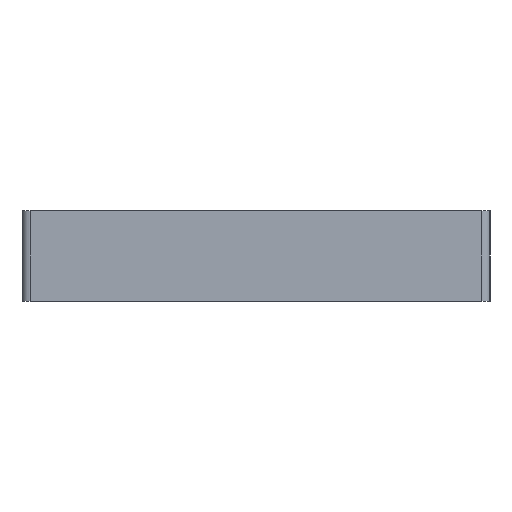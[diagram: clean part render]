
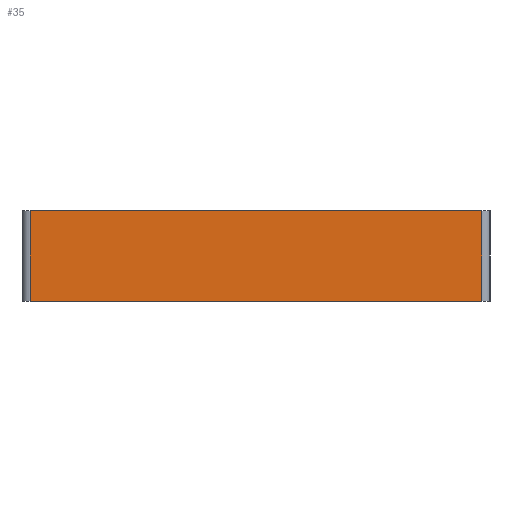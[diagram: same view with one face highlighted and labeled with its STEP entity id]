
A CAD part, left-side view. The second image highlights one B-rep face of the part: STEP entity #35.
In plain terms, the highlighted planar face has unit normal (-1, 0, 0).
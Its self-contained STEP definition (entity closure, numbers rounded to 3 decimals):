
#35 = ADVANCED_FACE('',(#36),#50,.T.);
#36 = FACE_BOUND('',#37,.T.);
#37 = EDGE_LOOP('',(#38,#73,#101,#129));
#38 = ORIENTED_EDGE('',*,*,#39,.T.);
#39 = EDGE_CURVE('',#40,#42,#44,.T.);
#40 = VERTEX_POINT('',#41);
#41 = CARTESIAN_POINT('',(-106.,-55.,3.4));
#42 = VERTEX_POINT('',#43);
#43 = CARTESIAN_POINT('',(-106.,-55.,25.4));
#44 = SURFACE_CURVE('',#45,(#49,#61),.PCURVE_S1.);
#45 = LINE('',#46,#47);
#46 = CARTESIAN_POINT('',(-106.,-55.,3.4));
#47 = VECTOR('',#48,1.);
#48 = DIRECTION('',(0.,0.,1.));
#49 = PCURVE('',#50,#55);
#50 = PLANE('',#51);
#51 = AXIS2_PLACEMENT_3D('',#52,#53,#54);
#52 = CARTESIAN_POINT('',(-106.,-55.,3.4));
#53 = DIRECTION('',(-1.,0.,0.));
#54 = DIRECTION('',(0.,1.,0.));
#55 = DEFINITIONAL_REPRESENTATION('',(#56),#60);
#56 = LINE('',#57,#58);
#57 = CARTESIAN_POINT('',(0.,0.));
#58 = VECTOR('',#59,1.);
#59 = DIRECTION('',(0.,-1.));
#60 = ( GEOMETRIC_REPRESENTATION_CONTEXT(2) 
PARAMETRIC_REPRESENTATION_CONTEXT() REPRESENTATION_CONTEXT('2D SPACE',''
  ) );
#61 = PCURVE('',#62,#67);
#62 = CYLINDRICAL_SURFACE('',#63,2.);
#63 = AXIS2_PLACEMENT_3D('',#64,#65,#66);
#64 = CARTESIAN_POINT('',(-104.,-55.,3.4));
#65 = DIRECTION('',(0.,0.,-1.));
#66 = DIRECTION('',(-1.,0.,0.));
#67 = DEFINITIONAL_REPRESENTATION('',(#68),#72);
#68 = LINE('',#69,#70);
#69 = CARTESIAN_POINT('',(6.283,0.));
#70 = VECTOR('',#71,1.);
#71 = DIRECTION('',(0.,-1.));
#72 = ( GEOMETRIC_REPRESENTATION_CONTEXT(2) 
PARAMETRIC_REPRESENTATION_CONTEXT() REPRESENTATION_CONTEXT('2D SPACE',''
  ) );
#73 = ORIENTED_EDGE('',*,*,#74,.T.);
#74 = EDGE_CURVE('',#42,#75,#77,.T.);
#75 = VERTEX_POINT('',#76);
#76 = CARTESIAN_POINT('',(-106.,55.,25.4));
#77 = SURFACE_CURVE('',#78,(#82,#89),.PCURVE_S1.);
#78 = LINE('',#79,#80);
#79 = CARTESIAN_POINT('',(-106.,0.,25.4));
#80 = VECTOR('',#81,1.);
#81 = DIRECTION('',(0.,1.,0.));
#82 = PCURVE('',#50,#83);
#83 = DEFINITIONAL_REPRESENTATION('',(#84),#88);
#84 = LINE('',#85,#86);
#85 = CARTESIAN_POINT('',(55.,-22.));
#86 = VECTOR('',#87,1.);
#87 = DIRECTION('',(1.,0.));
#88 = ( GEOMETRIC_REPRESENTATION_CONTEXT(2) 
PARAMETRIC_REPRESENTATION_CONTEXT() REPRESENTATION_CONTEXT('2D SPACE',''
  ) );
#89 = PCURVE('',#90,#95);
#90 = PLANE('',#91);
#91 = AXIS2_PLACEMENT_3D('',#92,#93,#94);
#92 = CARTESIAN_POINT('',(-103.,0.,25.4));
#93 = DIRECTION('',(0.,0.,1.));
#94 = DIRECTION('',(1.,0.,-0.));
#95 = DEFINITIONAL_REPRESENTATION('',(#96),#100);
#96 = LINE('',#97,#98);
#97 = CARTESIAN_POINT('',(-3.,0.));
#98 = VECTOR('',#99,1.);
#99 = DIRECTION('',(0.,1.));
#100 = ( GEOMETRIC_REPRESENTATION_CONTEXT(2) 
PARAMETRIC_REPRESENTATION_CONTEXT() REPRESENTATION_CONTEXT('2D SPACE',''
  ) );
#101 = ORIENTED_EDGE('',*,*,#102,.F.);
#102 = EDGE_CURVE('',#103,#75,#105,.T.);
#103 = VERTEX_POINT('',#104);
#104 = CARTESIAN_POINT('',(-106.,55.,3.4));
#105 = SURFACE_CURVE('',#106,(#110,#117),.PCURVE_S1.);
#106 = LINE('',#107,#108);
#107 = CARTESIAN_POINT('',(-106.,55.,3.4));
#108 = VECTOR('',#109,1.);
#109 = DIRECTION('',(0.,0.,1.));
#110 = PCURVE('',#50,#111);
#111 = DEFINITIONAL_REPRESENTATION('',(#112),#116);
#112 = LINE('',#113,#114);
#113 = CARTESIAN_POINT('',(110.,0.));
#114 = VECTOR('',#115,1.);
#115 = DIRECTION('',(0.,-1.));
#116 = ( GEOMETRIC_REPRESENTATION_CONTEXT(2) 
PARAMETRIC_REPRESENTATION_CONTEXT() REPRESENTATION_CONTEXT('2D SPACE',''
  ) );
#117 = PCURVE('',#118,#123);
#118 = CYLINDRICAL_SURFACE('',#119,2.);
#119 = AXIS2_PLACEMENT_3D('',#120,#121,#122);
#120 = CARTESIAN_POINT('',(-104.,55.,3.4));
#121 = DIRECTION('',(0.,0.,-1.));
#122 = DIRECTION('',(-1.,0.,0.));
#123 = DEFINITIONAL_REPRESENTATION('',(#124),#128);
#124 = LINE('',#125,#126);
#125 = CARTESIAN_POINT('',(0.,0.));
#126 = VECTOR('',#127,1.);
#127 = DIRECTION('',(0.,-1.));
#128 = ( GEOMETRIC_REPRESENTATION_CONTEXT(2) 
PARAMETRIC_REPRESENTATION_CONTEXT() REPRESENTATION_CONTEXT('2D SPACE',''
  ) );
#129 = ORIENTED_EDGE('',*,*,#130,.F.);
#130 = EDGE_CURVE('',#40,#103,#131,.T.);
#131 = SURFACE_CURVE('',#132,(#136,#143),.PCURVE_S1.);
#132 = LINE('',#133,#134);
#133 = CARTESIAN_POINT('',(-106.,0.,3.4));
#134 = VECTOR('',#135,1.);
#135 = DIRECTION('',(0.,1.,0.));
#136 = PCURVE('',#50,#137);
#137 = DEFINITIONAL_REPRESENTATION('',(#138),#142);
#138 = LINE('',#139,#140);
#139 = CARTESIAN_POINT('',(55.,0.));
#140 = VECTOR('',#141,1.);
#141 = DIRECTION('',(1.,0.));
#142 = ( GEOMETRIC_REPRESENTATION_CONTEXT(2) 
PARAMETRIC_REPRESENTATION_CONTEXT() REPRESENTATION_CONTEXT('2D SPACE',''
  ) );
#143 = PCURVE('',#144,#149);
#144 = PLANE('',#145);
#145 = AXIS2_PLACEMENT_3D('',#146,#147,#148);
#146 = CARTESIAN_POINT('',(-103.,0.,3.4));
#147 = DIRECTION('',(0.,0.,1.));
#148 = DIRECTION('',(1.,0.,-0.));
#149 = DEFINITIONAL_REPRESENTATION('',(#150),#154);
#150 = LINE('',#151,#152);
#151 = CARTESIAN_POINT('',(-3.,0.));
#152 = VECTOR('',#153,1.);
#153 = DIRECTION('',(0.,1.));
#154 = ( GEOMETRIC_REPRESENTATION_CONTEXT(2) 
PARAMETRIC_REPRESENTATION_CONTEXT() REPRESENTATION_CONTEXT('2D SPACE',''
  ) );
